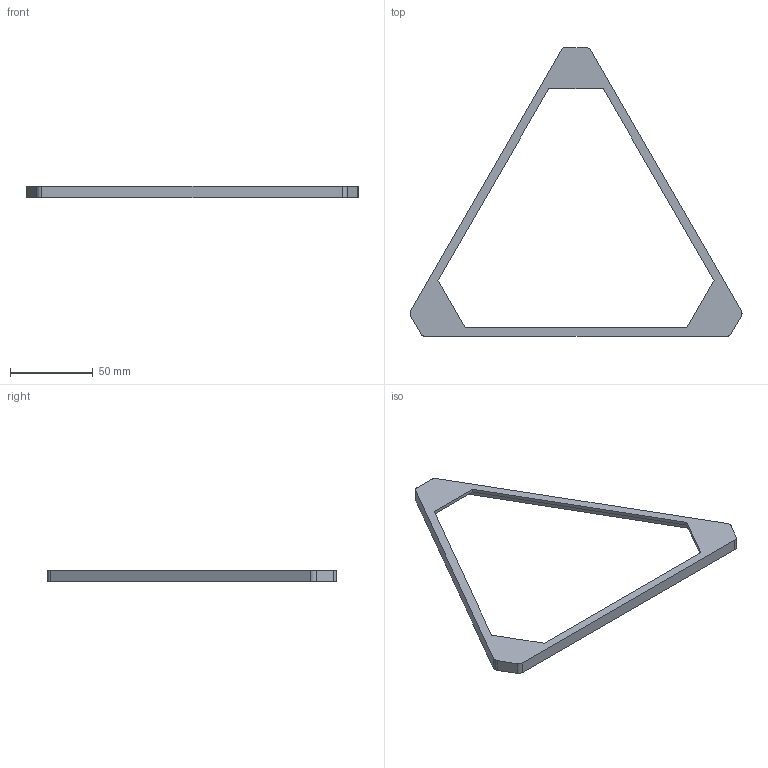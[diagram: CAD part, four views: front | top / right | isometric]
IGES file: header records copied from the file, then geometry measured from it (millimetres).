
Global section: file name: Top lead Full; native system: Autodesk Inventor 2017; preprocessor: unknown; author: cdrsk; date: 20181227.183732; units: millimetre
Bounding box: 200.65 x 174.63 x 7.2 mm (x, y, z)
Volume: 11768.9 mm3; surface area: 17099.8 mm2
Topology: 1 solids, 1 shells, 51 faces, 135 edges, 90 vertices
Faces by surface type: bspline 51
